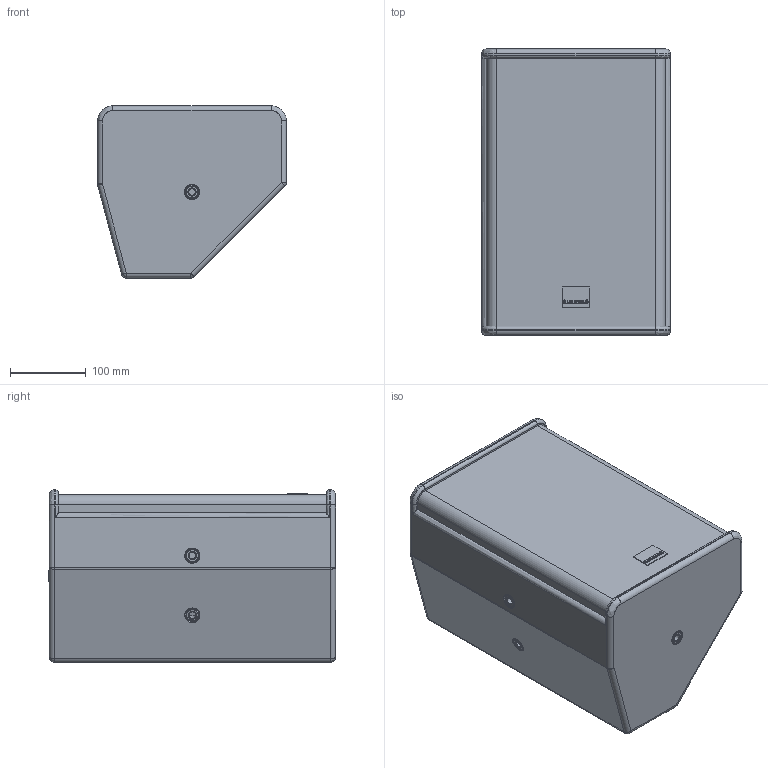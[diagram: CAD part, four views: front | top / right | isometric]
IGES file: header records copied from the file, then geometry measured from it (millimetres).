
Start section: SolidWorks IGES file using analytic representation for surfaces
Global section: file name: C:\Dokumente und Einstellungen\PC_Fabian\Desktop\F-Serie\Seeburg_SRX-810.IGS; native system: SolidWorks 2009; preprocessor: SolidWorks 2009; author: PC_Fabian; date: 121015.145058; units: millimetre
Bounding box: 250 x 380 x 228 mm (x, y, z)
Surface area: 920537.9 mm2 (no closed solid volume)
Topology: 0 solids, 0 shells, 372 faces, 3823 edges, 3821 vertices
Faces by surface type: revolution 220, bspline 152
